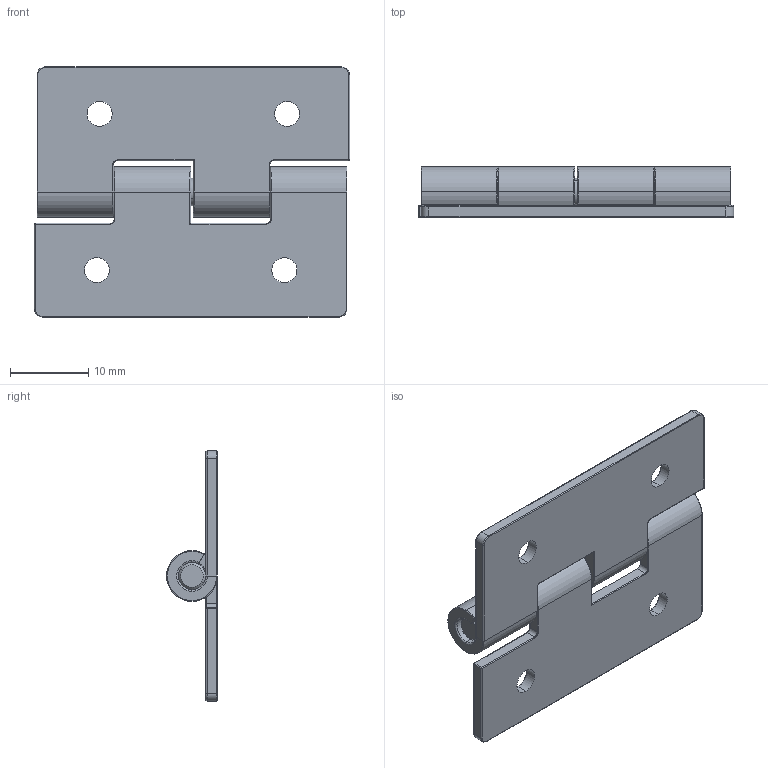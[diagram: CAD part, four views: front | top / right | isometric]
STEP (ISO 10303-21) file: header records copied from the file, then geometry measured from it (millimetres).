
FILE_DESCRIPTION (( 'STEP AP203' ), '1' );
FILE_NAME ('CL253S4A037.STEP', '2016-07-14T07:12:17', ( 'master' ), ( 'Microsoft' ), 'SwSTEP 2.0', 'SolidWorks 2014', '' );
FILE_SCHEMA (( 'CONFIG_CONTROL_DESIGN' ));
Length unit declared in the file: millimetre
Products named in the file (3): 8SJ.CL253-20.0470蝓蟈珜1; 8SJ.CL253-9.0090蛌粣; CL253S4A037
Assembly tree (3 placements, depth 2):
  CL253S4A037
    8SJ.CL253-20.0470蝓蟈珜1  x2
    8SJ.CL253-9.0090蛌粣
Bounding box: 40.35 x 6.5 x 32 mm (x, y, z)
Volume: 2768.1 mm3; surface area: 4196.5 mm2
Topology: 3 solids, 3 shells, 264 faces, 635 edges, 375 vertices
Faces by surface type: plane 128, cylinder 70, torus 60, cone 4, sphere 2
Entity records: 5724 total; most frequent: DIRECTION 1034, CARTESIAN_POINT 911, ORIENTED_EDGE 898, EDGE_CURVE 449, AXIS2_PLACEMENT_3D 394, VERTEX_POINT 267, LINE 246, VECTOR 246
